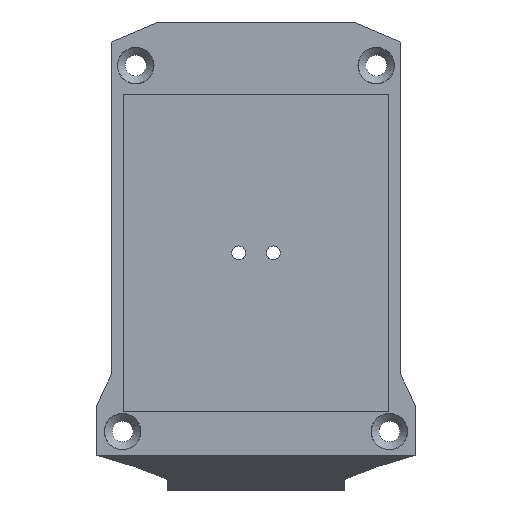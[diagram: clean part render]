
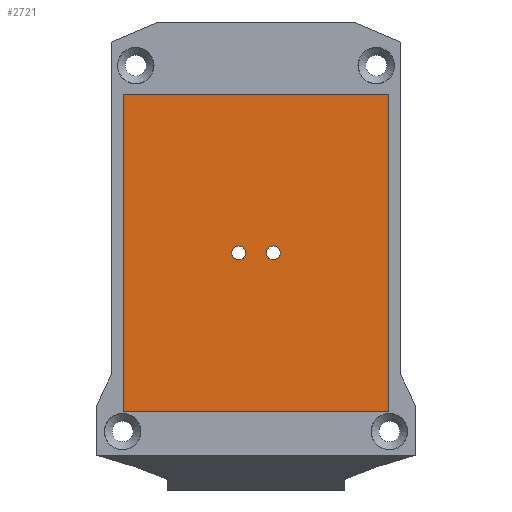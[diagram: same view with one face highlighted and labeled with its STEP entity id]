
A CAD part, top view. The second image highlights one B-rep face of the part: STEP entity #2721.
In plain terms, the highlighted planar face has unit normal (0, 0, 1).
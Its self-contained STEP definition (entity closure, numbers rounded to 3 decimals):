
#506 = CYLINDRICAL_SURFACE('',#507,0.8);
#507 = AXIS2_PLACEMENT_3D('',#508,#509,#510);
#508 = CARTESIAN_POINT('',(-2.,122.,3.8));
#509 = DIRECTION('',(0.,0.,1.));
#510 = DIRECTION('',(1.,0.,-0.));
#537 = CYLINDRICAL_SURFACE('',#538,0.8);
#538 = AXIS2_PLACEMENT_3D('',#539,#540,#541);
#539 = CARTESIAN_POINT('',(2.,122.,3.8));
#540 = DIRECTION('',(0.,0.,1.));
#541 = DIRECTION('',(1.,0.,-0.));
#1266 = EDGE_CURVE('',#1267,#1267,#1269,.T.);
#1267 = VERTEX_POINT('',#1268);
#1268 = CARTESIAN_POINT('',(-1.2,122.,4.8));
#1269 = SURFACE_CURVE('',#1270,(#1275,#1282),.PCURVE_S1.);
#1270 = CIRCLE('',#1271,0.8);
#1271 = AXIS2_PLACEMENT_3D('',#1272,#1273,#1274);
#1272 = CARTESIAN_POINT('',(-2.,122.,4.8));
#1273 = DIRECTION('',(0.,0.,1.));
#1274 = DIRECTION('',(1.,0.,-0.));
#1275 = PCURVE('',#506,#1276);
#1276 = DEFINITIONAL_REPRESENTATION('',(#1277),#1281);
#1277 = LINE('',#1278,#1279);
#1278 = CARTESIAN_POINT('',(0.,1.));
#1279 = VECTOR('',#1280,1.);
#1280 = DIRECTION('',(1.,0.));
#1281 = ( GEOMETRIC_REPRESENTATION_CONTEXT(2) 
PARAMETRIC_REPRESENTATION_CONTEXT() REPRESENTATION_CONTEXT('2D SPACE',''
  ) );
#1282 = PCURVE('',#1283,#1288);
#1283 = PLANE('',#1284);
#1284 = AXIS2_PLACEMENT_3D('',#1285,#1286,#1287);
#1285 = CARTESIAN_POINT('',(-15.2,103.8,4.8));
#1286 = DIRECTION('',(0.,0.,1.));
#1287 = DIRECTION('',(1.,0.,-0.));
#1288 = DEFINITIONAL_REPRESENTATION('',(#1289),#1293);
#1289 = CIRCLE('',#1290,0.8);
#1290 = AXIS2_PLACEMENT_2D('',#1291,#1292);
#1291 = CARTESIAN_POINT('',(13.2,18.2));
#1292 = DIRECTION('',(1.,0.));
#1293 = ( GEOMETRIC_REPRESENTATION_CONTEXT(2) 
PARAMETRIC_REPRESENTATION_CONTEXT() REPRESENTATION_CONTEXT('2D SPACE',''
  ) );
#1321 = EDGE_CURVE('',#1322,#1322,#1324,.T.);
#1322 = VERTEX_POINT('',#1323);
#1323 = CARTESIAN_POINT('',(2.8,122.,4.8));
#1324 = SURFACE_CURVE('',#1325,(#1330,#1337),.PCURVE_S1.);
#1325 = CIRCLE('',#1326,0.8);
#1326 = AXIS2_PLACEMENT_3D('',#1327,#1328,#1329);
#1327 = CARTESIAN_POINT('',(2.,122.,4.8));
#1328 = DIRECTION('',(0.,0.,1.));
#1329 = DIRECTION('',(1.,0.,-0.));
#1330 = PCURVE('',#537,#1331);
#1331 = DEFINITIONAL_REPRESENTATION('',(#1332),#1336);
#1332 = LINE('',#1333,#1334);
#1333 = CARTESIAN_POINT('',(0.,1.));
#1334 = VECTOR('',#1335,1.);
#1335 = DIRECTION('',(1.,0.));
#1336 = ( GEOMETRIC_REPRESENTATION_CONTEXT(2) 
PARAMETRIC_REPRESENTATION_CONTEXT() REPRESENTATION_CONTEXT('2D SPACE',''
  ) );
#1337 = PCURVE('',#1283,#1338);
#1338 = DEFINITIONAL_REPRESENTATION('',(#1339),#1343);
#1339 = CIRCLE('',#1340,0.8);
#1340 = AXIS2_PLACEMENT_2D('',#1341,#1342);
#1341 = CARTESIAN_POINT('',(17.2,18.2));
#1342 = DIRECTION('',(1.,0.));
#1343 = ( GEOMETRIC_REPRESENTATION_CONTEXT(2) 
PARAMETRIC_REPRESENTATION_CONTEXT() REPRESENTATION_CONTEXT('2D SPACE',''
  ) );
#2721 = ADVANCED_FACE('',(#2722,#2836,#2839),#1283,.T.);
#2722 = FACE_BOUND('',#2723,.T.);
#2723 = EDGE_LOOP('',(#2724,#2754,#2782,#2810));
#2724 = ORIENTED_EDGE('',*,*,#2725,.F.);
#2725 = EDGE_CURVE('',#2726,#2728,#2730,.T.);
#2726 = VERTEX_POINT('',#2727);
#2727 = CARTESIAN_POINT('',(-15.2,103.8,4.8));
#2728 = VERTEX_POINT('',#2729);
#2729 = CARTESIAN_POINT('',(-15.2,140.2,4.8));
#2730 = SURFACE_CURVE('',#2731,(#2735,#2742),.PCURVE_S1.);
#2731 = LINE('',#2732,#2733);
#2732 = CARTESIAN_POINT('',(-15.2,103.8,4.8));
#2733 = VECTOR('',#2734,1.);
#2734 = DIRECTION('',(-0.,1.,0.));
#2735 = PCURVE('',#1283,#2736);
#2736 = DEFINITIONAL_REPRESENTATION('',(#2737),#2741);
#2737 = LINE('',#2738,#2739);
#2738 = CARTESIAN_POINT('',(0.,0.));
#2739 = VECTOR('',#2740,1.);
#2740 = DIRECTION('',(0.,1.));
#2741 = ( GEOMETRIC_REPRESENTATION_CONTEXT(2) 
PARAMETRIC_REPRESENTATION_CONTEXT() REPRESENTATION_CONTEXT('2D SPACE',''
  ) );
#2742 = PCURVE('',#2743,#2748);
#2743 = PLANE('',#2744);
#2744 = AXIS2_PLACEMENT_3D('',#2745,#2746,#2747);
#2745 = CARTESIAN_POINT('',(-15.2,103.8,4.8));
#2746 = DIRECTION('',(1.,0.,-0.));
#2747 = DIRECTION('',(0.,0.,1.));
#2748 = DEFINITIONAL_REPRESENTATION('',(#2749),#2753);
#2749 = LINE('',#2750,#2751);
#2750 = CARTESIAN_POINT('',(0.,0.));
#2751 = VECTOR('',#2752,1.);
#2752 = DIRECTION('',(0.,-1.));
#2753 = ( GEOMETRIC_REPRESENTATION_CONTEXT(2) 
PARAMETRIC_REPRESENTATION_CONTEXT() REPRESENTATION_CONTEXT('2D SPACE',''
  ) );
#2754 = ORIENTED_EDGE('',*,*,#2755,.T.);
#2755 = EDGE_CURVE('',#2726,#2756,#2758,.T.);
#2756 = VERTEX_POINT('',#2757);
#2757 = CARTESIAN_POINT('',(15.2,103.8,4.8));
#2758 = SURFACE_CURVE('',#2759,(#2763,#2770),.PCURVE_S1.);
#2759 = LINE('',#2760,#2761);
#2760 = CARTESIAN_POINT('',(-15.2,103.8,4.8));
#2761 = VECTOR('',#2762,1.);
#2762 = DIRECTION('',(1.,0.,-0.));
#2763 = PCURVE('',#1283,#2764);
#2764 = DEFINITIONAL_REPRESENTATION('',(#2765),#2769);
#2765 = LINE('',#2766,#2767);
#2766 = CARTESIAN_POINT('',(0.,0.));
#2767 = VECTOR('',#2768,1.);
#2768 = DIRECTION('',(1.,0.));
#2769 = ( GEOMETRIC_REPRESENTATION_CONTEXT(2) 
PARAMETRIC_REPRESENTATION_CONTEXT() REPRESENTATION_CONTEXT('2D SPACE',''
  ) );
#2770 = PCURVE('',#2771,#2776);
#2771 = PLANE('',#2772);
#2772 = AXIS2_PLACEMENT_3D('',#2773,#2774,#2775);
#2773 = CARTESIAN_POINT('',(-15.2,103.8,4.8));
#2774 = DIRECTION('',(-0.,1.,0.));
#2775 = DIRECTION('',(0.,0.,1.));
#2776 = DEFINITIONAL_REPRESENTATION('',(#2777),#2781);
#2777 = LINE('',#2778,#2779);
#2778 = CARTESIAN_POINT('',(0.,0.));
#2779 = VECTOR('',#2780,1.);
#2780 = DIRECTION('',(0.,1.));
#2781 = ( GEOMETRIC_REPRESENTATION_CONTEXT(2) 
PARAMETRIC_REPRESENTATION_CONTEXT() REPRESENTATION_CONTEXT('2D SPACE',''
  ) );
#2782 = ORIENTED_EDGE('',*,*,#2783,.T.);
#2783 = EDGE_CURVE('',#2756,#2784,#2786,.T.);
#2784 = VERTEX_POINT('',#2785);
#2785 = CARTESIAN_POINT('',(15.2,140.2,4.8));
#2786 = SURFACE_CURVE('',#2787,(#2791,#2798),.PCURVE_S1.);
#2787 = LINE('',#2788,#2789);
#2788 = CARTESIAN_POINT('',(15.2,103.8,4.8));
#2789 = VECTOR('',#2790,1.);
#2790 = DIRECTION('',(-0.,1.,0.));
#2791 = PCURVE('',#1283,#2792);
#2792 = DEFINITIONAL_REPRESENTATION('',(#2793),#2797);
#2793 = LINE('',#2794,#2795);
#2794 = CARTESIAN_POINT('',(30.4,0.));
#2795 = VECTOR('',#2796,1.);
#2796 = DIRECTION('',(0.,1.));
#2797 = ( GEOMETRIC_REPRESENTATION_CONTEXT(2) 
PARAMETRIC_REPRESENTATION_CONTEXT() REPRESENTATION_CONTEXT('2D SPACE',''
  ) );
#2798 = PCURVE('',#2799,#2804);
#2799 = PLANE('',#2800);
#2800 = AXIS2_PLACEMENT_3D('',#2801,#2802,#2803);
#2801 = CARTESIAN_POINT('',(15.2,103.8,4.8));
#2802 = DIRECTION('',(1.,0.,-0.));
#2803 = DIRECTION('',(0.,0.,1.));
#2804 = DEFINITIONAL_REPRESENTATION('',(#2805),#2809);
#2805 = LINE('',#2806,#2807);
#2806 = CARTESIAN_POINT('',(0.,0.));
#2807 = VECTOR('',#2808,1.);
#2808 = DIRECTION('',(0.,-1.));
#2809 = ( GEOMETRIC_REPRESENTATION_CONTEXT(2) 
PARAMETRIC_REPRESENTATION_CONTEXT() REPRESENTATION_CONTEXT('2D SPACE',''
  ) );
#2810 = ORIENTED_EDGE('',*,*,#2811,.F.);
#2811 = EDGE_CURVE('',#2728,#2784,#2812,.T.);
#2812 = SURFACE_CURVE('',#2813,(#2817,#2824),.PCURVE_S1.);
#2813 = LINE('',#2814,#2815);
#2814 = CARTESIAN_POINT('',(-15.2,140.2,4.8));
#2815 = VECTOR('',#2816,1.);
#2816 = DIRECTION('',(1.,0.,-0.));
#2817 = PCURVE('',#1283,#2818);
#2818 = DEFINITIONAL_REPRESENTATION('',(#2819),#2823);
#2819 = LINE('',#2820,#2821);
#2820 = CARTESIAN_POINT('',(0.,36.4));
#2821 = VECTOR('',#2822,1.);
#2822 = DIRECTION('',(1.,0.));
#2823 = ( GEOMETRIC_REPRESENTATION_CONTEXT(2) 
PARAMETRIC_REPRESENTATION_CONTEXT() REPRESENTATION_CONTEXT('2D SPACE',''
  ) );
#2824 = PCURVE('',#2825,#2830);
#2825 = PLANE('',#2826);
#2826 = AXIS2_PLACEMENT_3D('',#2827,#2828,#2829);
#2827 = CARTESIAN_POINT('',(-15.2,140.2,4.8));
#2828 = DIRECTION('',(-0.,1.,0.));
#2829 = DIRECTION('',(0.,0.,1.));
#2830 = DEFINITIONAL_REPRESENTATION('',(#2831),#2835);
#2831 = LINE('',#2832,#2833);
#2832 = CARTESIAN_POINT('',(0.,0.));
#2833 = VECTOR('',#2834,1.);
#2834 = DIRECTION('',(0.,1.));
#2835 = ( GEOMETRIC_REPRESENTATION_CONTEXT(2) 
PARAMETRIC_REPRESENTATION_CONTEXT() REPRESENTATION_CONTEXT('2D SPACE',''
  ) );
#2836 = FACE_BOUND('',#2837,.T.);
#2837 = EDGE_LOOP('',(#2838));
#2838 = ORIENTED_EDGE('',*,*,#1266,.F.);
#2839 = FACE_BOUND('',#2840,.T.);
#2840 = EDGE_LOOP('',(#2841));
#2841 = ORIENTED_EDGE('',*,*,#1321,.F.);
